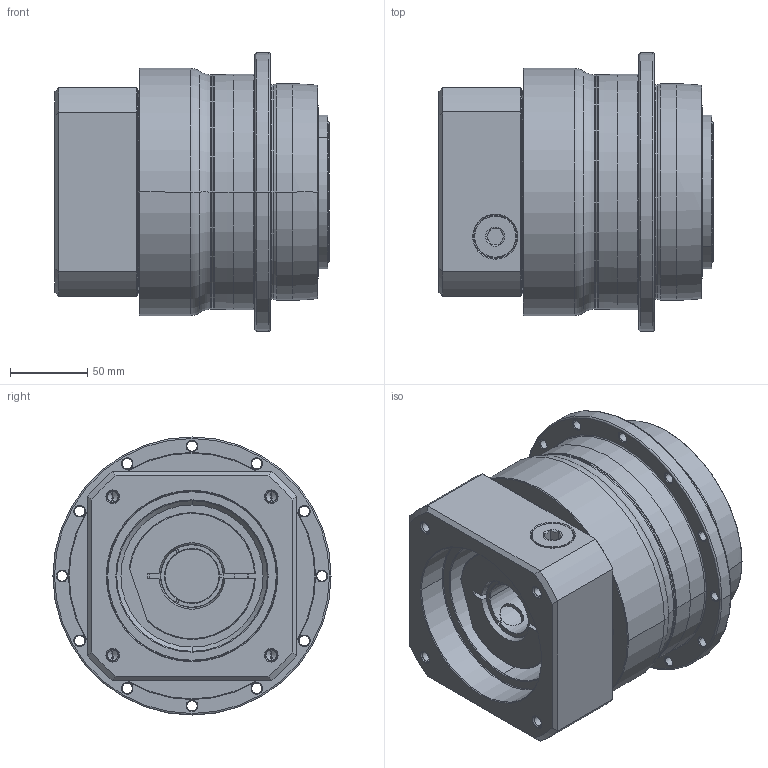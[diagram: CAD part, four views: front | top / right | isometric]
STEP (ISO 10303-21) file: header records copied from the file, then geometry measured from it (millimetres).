
FILE_DESCRIPTION((''),'2;1');
FILE_NAME('AH140_1ST_35-P0409800101_ASM','2016-08-16T',('d00435'),(''),'PRO/ENGINEER BY PARAMETRIC TECHNOLOGY CORPORATION, 2008410','PRO/ENGINEER BY PARAMETRIC TECHNOLOGY CORPORATION, 2008410','');
FILE_SCHEMA(('CONFIG_CONTROL_DESIGN'));
Length unit declared in the file: millimetre
Products named in the file (8): P0278500003; P0359500003; P1318500301; P0409800101; P0503800012; P0912503201; 21711422019; AH140_1ST_35-P0409800101_ASM
Assembly tree (7 placements, depth 2):
  AH140_1ST_35-P0409800101_ASM
    P0278500003
    P0359500003
    P1318500301
    P0409800101
    P0503800012
    P0912503201
    21711422019
Bounding box: 177.5 x 180 x 180 mm (x, y, z)
Volume: 2666260.5 mm3; surface area: 340559.3 mm2
Topology: 8 solids, 32 shells, 608 faces, 1411 edges, 857 vertices
Faces by surface type: cylinder 252, cone 170, plane 116, torus 56, bspline 14
Entity records: 21934 total; most frequent: CARTESIAN_POINT 7700, DIRECTION 3253, ORIENTED_EDGE 2634, AXIS2_PLACEMENT_3D 1380, EDGE_CURVE 1365, VERTEX_POINT 857, CIRCLE 761, EDGE_LOOP 730
